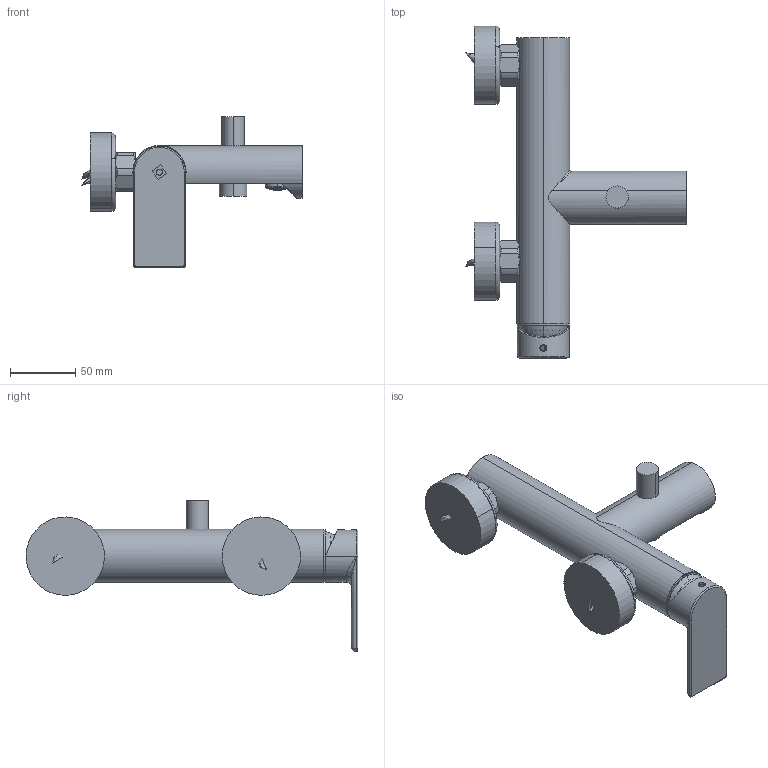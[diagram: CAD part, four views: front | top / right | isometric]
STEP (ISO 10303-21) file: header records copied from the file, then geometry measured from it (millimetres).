
FILE_DESCRIPTION (( 'STEP AP214' ), '1' );
FILE_NAME ('80121610 x architetti.STEP', '2024-06-21T07:51:03', ( '' ), ( '' ), 'SwSTEP 2.0', 'SolidWorks 2020', '' );
FILE_SCHEMA (( 'AUTOMOTIVE_DESIGN' ));
Length unit declared in the file: millimetre
Products named in the file (1): 80121610 x architetti
Bounding box: 168.87 x 253.99 x 115.57 mm (x, y, z)
Surface area: 102604.2 mm2 (no closed solid volume)
Topology: 0 solids, 11 shells, 3161 faces, 8948 edges, 5582 vertices
Faces by surface type: plane 1388, bspline 1038, cylinder 629, cone 95, torus 11
Entity records: 163593 total; most frequent: CARTESIAN_POINT 60677, ORIENTED_EDGE 17176, DIRECTION 10405, EDGE_CURVE 8593, VERTEX_POINT 5561, AXIS2_PLACEMENT_3D 3712, B_SPLINE_CURVE_WITH_KNOTS 3358, EDGE_LOOP 3297
